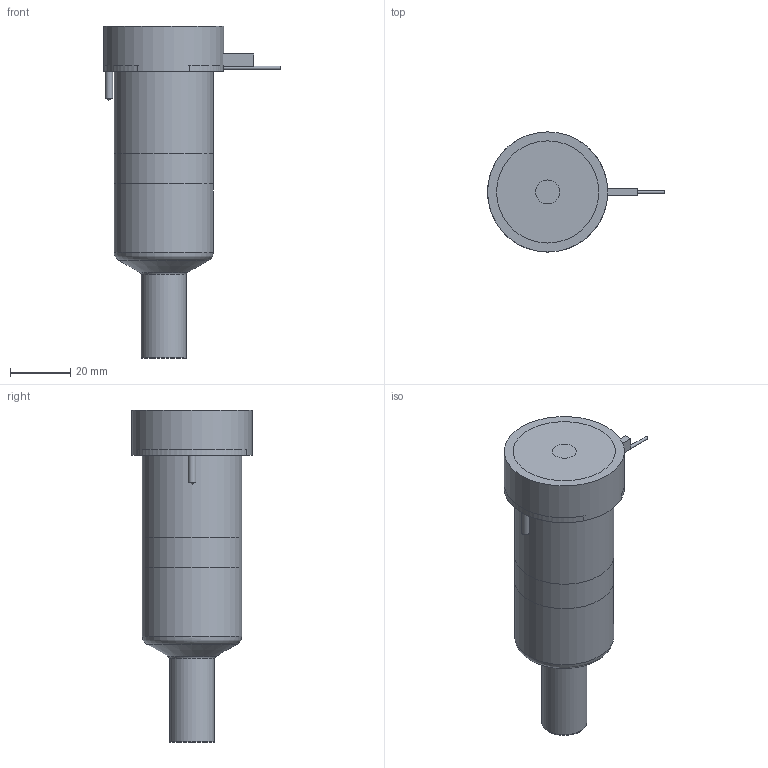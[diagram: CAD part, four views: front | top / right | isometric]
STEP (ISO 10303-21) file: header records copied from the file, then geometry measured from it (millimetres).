
FILE_DESCRIPTION(/* description */ (''),/* implementation_level */ '2;1');
FILE_NAME(/* name */ 'BXTSX-BXISX-BXOSX19075_200C_b',/* time_stamp */ '2008-04-29T14:06:43+12:00',/* author */ (''),/* organization */ (''),/* preprocessor_version */ 'ST-DEVELOPER v9',/* originating_system */ 'UGS - NX 4.0',/* authorisation */ '');
FILE_SCHEMA (('CONFIG_CONTROL_DESIGN'));
Length unit declared in the file: millimetre
Products named in the file (1): BXTSX-BXISX-BXOSX19075_200C_b
Bounding box: 58.85 x 40 x 110.45 mm (x, y, z)
Volume: 150647.6 mm3; surface area: 27546.1 mm2
Topology: 6 solids, 6 shells, 74 faces, 147 edges, 95 vertices
Faces by surface type: plane 35, cylinder 23, cone 8, torus 7, bspline 1
Full cylindrical faces by diameter (mm): 1 x3, 1.2 x1, 2.5 x2, 8 x1, 14.61 x1, 15.01 x2, 18.3 x1, 28.6 x1, 33 x2, 40 x1
Entity records: 1860 total; most frequent: CARTESIAN_POINT 376, DIRECTION 310, ORIENTED_EDGE 220, AXIS2_PLACEMENT_3D 136, EDGE_LOOP 112, EDGE_CURVE 110, VERTEX_POINT 87, ADVANCED_FACE 74
